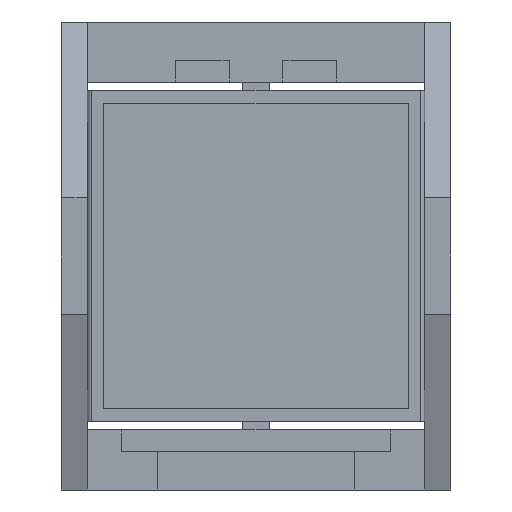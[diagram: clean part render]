
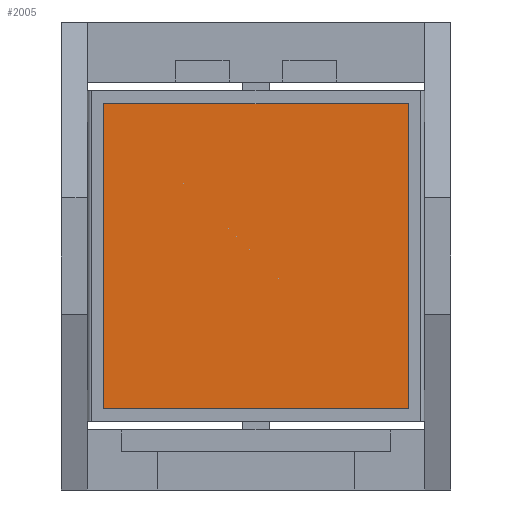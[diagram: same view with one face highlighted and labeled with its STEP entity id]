
A CAD part, front view. The second image highlights one B-rep face of the part: STEP entity #2005.
In plain terms, the highlighted planar face has unit normal (0, -1, 0).
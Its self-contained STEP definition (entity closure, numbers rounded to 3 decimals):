
#793 = CARTESIAN_POINT ( 'NONE',  ( -9.011, -2.481, 10.369 ) ) ;
#980 = EDGE_CURVE ( 'NONE', #5867, #6423, #5749, .T. ) ;
#1212 = CARTESIAN_POINT ( 'NONE',  ( 7.989, -2.481, -6.631 ) ) ;
#1343 = AXIS2_PLACEMENT_3D ( 'NONE', #5826, #1690, #4216 ) ;
#1381 = VECTOR ( 'NONE', #5165, 1000. ) ;
#1390 = CARTESIAN_POINT ( 'NONE',  ( -9.011, -2.481, -6.631 ) ) ;
#1557 = LINE ( 'NONE', #5652, #1381 ) ;
#1690 = DIRECTION ( 'NONE',  ( 0., 1., 0. ) ) ;
#1722 = VECTOR ( 'NONE', #4749, 1000. ) ;
#2005 = ADVANCED_FACE ( 'NONE', ( #2807 ), #3709, .F. ) ;
#2052 = ORIENTED_EDGE ( 'NONE', *, *, #5750, .F. ) ;
#2314 = DIRECTION ( 'NONE',  ( 1., 0., 0. ) ) ;
#2473 = VECTOR ( 'NONE', #2314, 1000. ) ;
#2753 = VERTEX_POINT ( 'NONE', #6029 ) ;
#2768 = CARTESIAN_POINT ( 'NONE',  ( -9.011, -2.481, 10.369 ) ) ;
#2807 = FACE_OUTER_BOUND ( 'NONE', #2909, .T. ) ;
#2909 = EDGE_LOOP ( 'NONE', ( #5358, #5444, #5628, #2052 ) ) ;
#3709 = PLANE ( 'NONE',  #1343 ) ;
#3792 = DIRECTION ( 'NONE',  ( -1., 0., 0. ) ) ;
#4056 = EDGE_CURVE ( 'NONE', #6423, #5716, #1557, .T. ) ;
#4216 = DIRECTION ( 'NONE',  ( 0., 0., 1. ) ) ;
#4749 = DIRECTION ( 'NONE',  ( 0., 0., -1. ) ) ;
#4784 = LINE ( 'NONE', #1212, #1722 ) ;
#4824 = LINE ( 'NONE', #2768, #2473 ) ;
#5014 = EDGE_CURVE ( 'NONE', #2753, #5867, #4784, .T. ) ;
#5165 = DIRECTION ( 'NONE',  ( 0., 0., 1. ) ) ;
#5358 = ORIENTED_EDGE ( 'NONE', *, *, #4056, .F. ) ;
#5444 = ORIENTED_EDGE ( 'NONE', *, *, #980, .F. ) ;
#5555 = VECTOR ( 'NONE', #3792, 1000. ) ;
#5628 = ORIENTED_EDGE ( 'NONE', *, *, #5014, .F. ) ;
#5652 = CARTESIAN_POINT ( 'NONE',  ( -9.011, -2.481, -6.631 ) ) ;
#5716 = VERTEX_POINT ( 'NONE', #793 ) ;
#5749 = LINE ( 'NONE', #6212, #5555 ) ;
#5750 = EDGE_CURVE ( 'NONE', #5716, #2753, #4824, .T. ) ;
#5826 = CARTESIAN_POINT ( 'NONE',  ( -9.011, -2.481, 10.369 ) ) ;
#5867 = VERTEX_POINT ( 'NONE', #5919 ) ;
#5919 = CARTESIAN_POINT ( 'NONE',  ( 7.989, -2.481, -6.631 ) ) ;
#6029 = CARTESIAN_POINT ( 'NONE',  ( 7.989, -2.481, 10.369 ) ) ;
#6212 = CARTESIAN_POINT ( 'NONE',  ( -9.011, -2.481, -6.631 ) ) ;
#6423 = VERTEX_POINT ( 'NONE', #1390 ) ;
